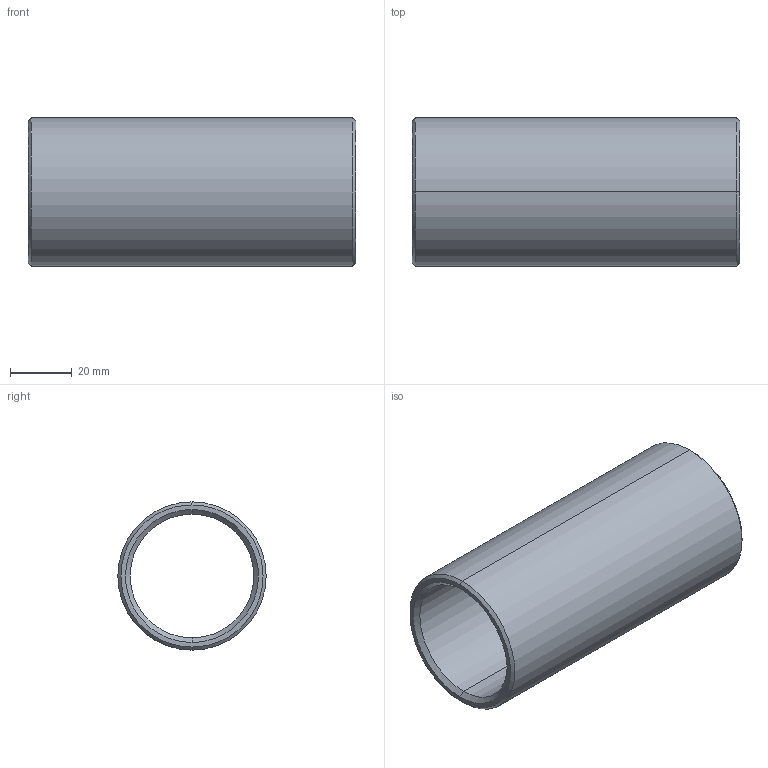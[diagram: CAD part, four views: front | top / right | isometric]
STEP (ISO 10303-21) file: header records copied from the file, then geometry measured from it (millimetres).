
FILE_DESCRIPTION(('CATIA V5 STEP Exchange'),'2;1');
FILE_NAME('C:\Users\Utente\Desktop\IO LAVORO\3D X SITO CF\X SITO\PLASTICA\352\352-40X106.stp','2021-04-14T14:49:37+00:00',('none'),('none'),'CATIA Version 5 Release 20 GA (IN-10)','CATIA V5 STEP AP203','none');
FILE_SCHEMA(('CONFIG_CONTROL_DESIGN'));
Length unit declared in the file: millimetre
Products named in the file (1): 352-40X106
Bounding box: 106 x 48 x 48 mm (x, y, z)
Volume: 58288.7 mm3; surface area: 30070.4 mm2
Topology: 1 solids, 1 shells, 14 faces, 44 edges, 32 vertices
Faces by surface type: cone 6, cylinder 4, plane 2, torus 2
Entity records: 634 total; most frequent: CARTESIAN_POINT 203, ORIENTED_EDGE 88, DIRECTION 64, EDGE_CURVE 44, AXIS2_PLACEMENT_3D 41, VERTEX_POINT 32, CIRCLE 26, EDGE_LOOP 16
